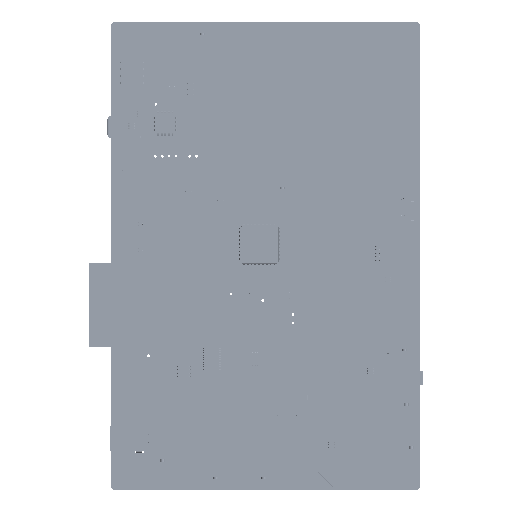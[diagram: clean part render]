
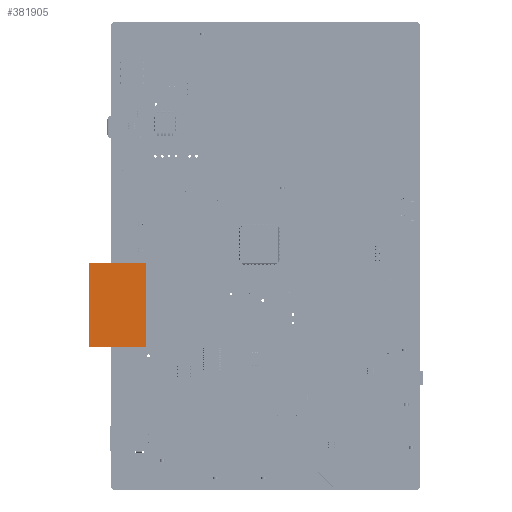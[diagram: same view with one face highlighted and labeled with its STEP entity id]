
A CAD part, top view. The second image highlights one B-rep face of the part: STEP entity #381905.
In plain terms, the highlighted planar face has unit normal (0, 0, 1).
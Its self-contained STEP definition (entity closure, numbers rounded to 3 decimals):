
#381776 = VERTEX_POINT('',#381777);
#381777 = CARTESIAN_POINT('',(-10.455,15.505,13.8));
#381783 = EDGE_CURVE('',#381776,#381784,#381786,.T.);
#381784 = VERTEX_POINT('',#381785);
#381785 = CARTESIAN_POINT('',(10.455,15.505,13.8));
#381786 = LINE('',#381787,#381788);
#381787 = CARTESIAN_POINT('',(-10.455,15.505,13.8));
#381788 = VECTOR('',#381789,1.);
#381789 = DIRECTION('',(1.,0.,0.));
#381814 = EDGE_CURVE('',#381784,#381815,#381817,.T.);
#381815 = VERTEX_POINT('',#381816);
#381816 = CARTESIAN_POINT('',(10.455,-15.505,13.8));
#381817 = LINE('',#381818,#381819);
#381818 = CARTESIAN_POINT('',(10.455,15.505,13.8));
#381819 = VECTOR('',#381820,1.);
#381820 = DIRECTION('',(0.,-1.,0.));
#381845 = EDGE_CURVE('',#381815,#381846,#381848,.T.);
#381846 = VERTEX_POINT('',#381847);
#381847 = CARTESIAN_POINT('',(-10.455,-15.505,13.8));
#381848 = LINE('',#381849,#381850);
#381849 = CARTESIAN_POINT('',(10.455,-15.505,13.8));
#381850 = VECTOR('',#381851,1.);
#381851 = DIRECTION('',(-1.,0.,0.));
#381876 = EDGE_CURVE('',#381846,#381776,#381877,.T.);
#381877 = LINE('',#381878,#381879);
#381878 = CARTESIAN_POINT('',(-10.455,-15.505,13.8));
#381879 = VECTOR('',#381880,1.);
#381880 = DIRECTION('',(0.,1.,0.));
#381905 = ADVANCED_FACE('',(#381906),#381912,.T.);
#381906 = FACE_BOUND('',#381907,.F.);
#381907 = EDGE_LOOP('',(#381908,#381909,#381910,#381911));
#381908 = ORIENTED_EDGE('',*,*,#381783,.T.);
#381909 = ORIENTED_EDGE('',*,*,#381814,.T.);
#381910 = ORIENTED_EDGE('',*,*,#381845,.T.);
#381911 = ORIENTED_EDGE('',*,*,#381876,.T.);
#381912 = PLANE('',#381913);
#381913 = AXIS2_PLACEMENT_3D('',#381914,#381915,#381916);
#381914 = CARTESIAN_POINT('',(-10.455,15.505,13.8));
#381915 = DIRECTION('',(0.,0.,1.));
#381916 = DIRECTION('',(1.,0.,0.));
